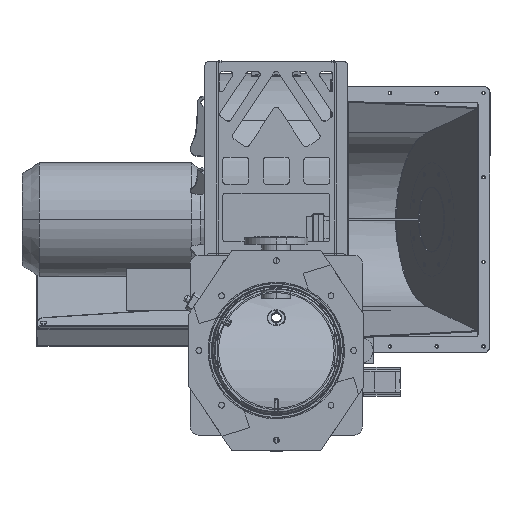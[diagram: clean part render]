
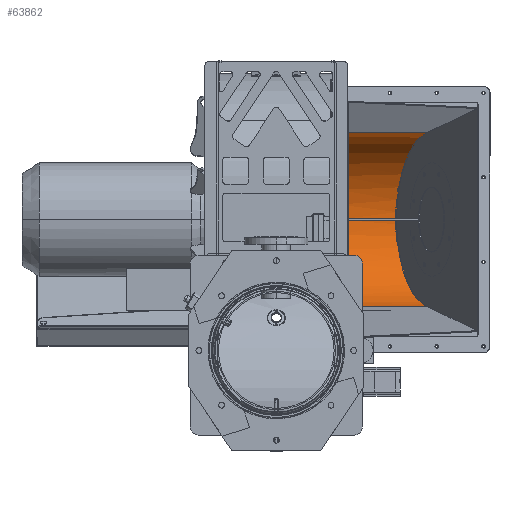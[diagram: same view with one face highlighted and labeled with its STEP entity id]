
A CAD part, front view. The second image highlights one B-rep face of the part: STEP entity #63862.
In plain terms, the highlighted cylindrical face has radius 272 mm (diameter 544 mm), a partial arc.
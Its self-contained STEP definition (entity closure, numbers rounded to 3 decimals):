
#520 = CYLINDRICAL_SURFACE ( 'NONE', #58573, 272. ) ;
#4927 = CARTESIAN_POINT ( 'NONE',  ( 194., 660.5, 402.5 ) ) ;
#6748 = EDGE_CURVE ( 'NONE', #92568, #43841, #149329, .T. ) ;
#8765 = CARTESIAN_POINT ( 'NONE',  ( 619., 714.728, 135.96 ) ) ;
#18325 = DIRECTION ( 'NONE',  ( 1., 0., 0. ) ) ;
#22679 = ORIENTED_EDGE ( 'NONE', *, *, #6748, .F. ) ;
#24929 = CIRCLE ( 'NONE', #139646, 272. ) ;
#27738 = FACE_OUTER_BOUND ( 'NONE', #65470, .T. ) ;
#29793 = DIRECTION ( 'NONE',  ( 0., -1., 0. ) ) ;
#43841 = VERTEX_POINT ( 'NONE', #153535 ) ;
#46273 = DIRECTION ( 'NONE',  ( 0., -1., 0. ) ) ;
#49248 = VECTOR ( 'NONE', #114244, 1000. ) ;
#58573 = AXIS2_PLACEMENT_3D ( 'NONE', #109615, #66547, #29793 ) ;
#63862 = ADVANCED_FACE ( 'NONE', ( #27738 ), #520, .F. ) ;
#65470 = EDGE_LOOP ( 'NONE', ( #115537, #123083, #22679, #122091 ) ) ;
#66547 = DIRECTION ( 'NONE',  ( 1., 0., 0. ) ) ;
#72559 = EDGE_CURVE ( 'NONE', #86053, #137471, #114463, .T. ) ;
#86022 = CARTESIAN_POINT ( 'NONE',  ( 462.547, 714.728, 669.04 ) ) ;
#86053 = VERTEX_POINT ( 'NONE', #137285 ) ;
#86608 = CARTESIAN_POINT ( 'NONE',  ( 304.3, 1088.192, 211.943 ) ) ;
#92568 = VERTEX_POINT ( 'NONE', #156918 ) ;
#98611 = CARTESIAN_POINT ( 'NONE',  ( 194., 714.728, 669.04 ) ) ;
#99934 = CARTESIAN_POINT ( 'NONE',  ( 462.547, 714.728, 135.96 ) ) ;
#106584 =( BOUNDED_CURVE ( )  B_SPLINE_CURVE ( 3, ( #86022, #112711, #86608, #99934 ),
 .UNSPECIFIED., .F., .F. ) 
 B_SPLINE_CURVE_WITH_KNOTS ( ( 4, 4 ),
 ( 1.772, 4.512 ),
 .UNSPECIFIED. ) 
 CURVE ( )  GEOMETRIC_REPRESENTATION_ITEM ( )  RATIONAL_B_SPLINE_CURVE ( ( 1., 0.466, 0.466, 1. ) ) 
 REPRESENTATION_ITEM ( '' )  );
#107836 = CARTESIAN_POINT ( 'NONE',  ( 194., 714.728, 669.04 ) ) ;
#109615 = CARTESIAN_POINT ( 'NONE',  ( 194., 660.5, 402.5 ) ) ;
#112302 = VECTOR ( 'NONE', #136008, 1000. ) ;
#112711 = CARTESIAN_POINT ( 'NONE',  ( 304.3, 1088.192, 593.057 ) ) ;
#114244 = DIRECTION ( 'NONE',  ( -1., 0., 0. ) ) ;
#114463 = LINE ( 'NONE', #98611, #112302 ) ;
#115537 = ORIENTED_EDGE ( 'NONE', *, *, #72559, .T. ) ;
#122091 = ORIENTED_EDGE ( 'NONE', *, *, #167142, .F. ) ;
#123083 = ORIENTED_EDGE ( 'NONE', *, *, #125072, .F. ) ;
#125072 = EDGE_CURVE ( 'NONE', #43841, #137471, #24929, .T. ) ;
#136008 = DIRECTION ( 'NONE',  ( -1., 0., 0. ) ) ;
#137285 = CARTESIAN_POINT ( 'NONE',  ( 462.547, 714.728, 669.04 ) ) ;
#137471 = VERTEX_POINT ( 'NONE', #107836 ) ;
#139646 = AXIS2_PLACEMENT_3D ( 'NONE', #4927, #18325, #46273 ) ;
#149329 = LINE ( 'NONE', #8765, #49248 ) ;
#153535 = CARTESIAN_POINT ( 'NONE',  ( 194., 714.728, 135.96 ) ) ;
#156918 = CARTESIAN_POINT ( 'NONE',  ( 462.547, 714.728, 135.96 ) ) ;
#167142 = EDGE_CURVE ( 'NONE', #86053, #92568, #106584, .T. ) ;
